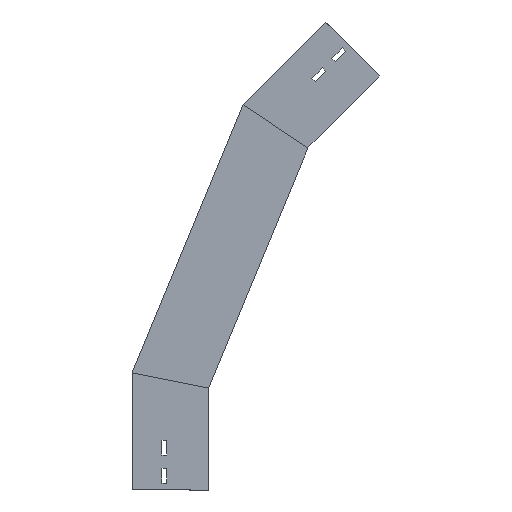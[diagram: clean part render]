
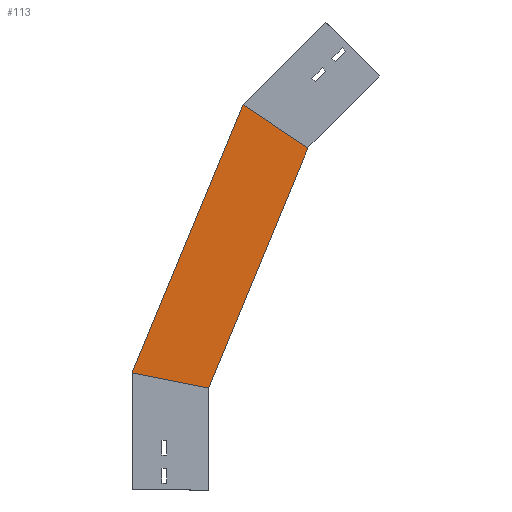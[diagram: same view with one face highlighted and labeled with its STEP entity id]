
A CAD part, left-side view. The second image highlights one B-rep face of the part: STEP entity #113.
In plain terms, the highlighted planar face has unit normal (-1, 0, 0) as drawn and (1, 0, 0) by its records, which use the part's own axes.
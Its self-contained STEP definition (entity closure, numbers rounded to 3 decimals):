
#20 = DIRECTION ( 'NONE',  ( 1., 0., 0. ) ) ;
#54 = CARTESIAN_POINT ( 'NONE',  ( 0., 112.5, 172.378 ) ) ;
#77 = LINE ( 'NONE', #306, #869 ) ;
#97 = CARTESIAN_POINT ( 'NONE',  ( 0., -51.195, 567.572 ) ) ;
#113 = ADVANCED_FACE ( 'NONE', ( #1435 ), #1058, .T. ) ;
#132 = EDGE_CURVE ( 'NONE', #1350, #738, #366, .T. ) ;
#149 = ORIENTED_EDGE ( 'NONE', *, *, #132, .T. ) ;
#169 = LINE ( 'NONE', #844, #1129 ) ;
#182 = VECTOR ( 'NONE', #1492, 1000. ) ;
#274 = DIRECTION ( 'NONE',  ( 0., -0.383, 0.924 ) ) ;
#306 = CARTESIAN_POINT ( 'NONE',  ( 0., -28.701, 144.291 ) ) ;
#366 = LINE ( 'NONE', #1339, #1147 ) ;
#392 = CARTESIAN_POINT ( 'NONE',  ( 0., 9.458, 127.166 ) ) ;
#439 = AXIS2_PLACEMENT_3D ( 'NONE', #392, #20, #947 ) ;
#537 = DIRECTION ( 'NONE',  ( 0., -0.981, -0.195 ) ) ;
#570 = VERTEX_POINT ( 'NONE', #626 ) ;
#626 = CARTESIAN_POINT ( 'NONE',  ( 0., -146.568, 503.846 ) ) ;
#657 = ORIENTED_EDGE ( 'NONE', *, *, #778, .T. ) ;
#728 = ORIENTED_EDGE ( 'NONE', *, *, #1251, .F. ) ;
#738 = VERTEX_POINT ( 'NONE', #97 ) ;
#778 = EDGE_CURVE ( 'NONE', #738, #570, #811, .T. ) ;
#811 = LINE ( 'NONE', #1254, #182 ) ;
#844 = CARTESIAN_POINT ( 'NONE',  ( 0., 9.458, 127.166 ) ) ;
#869 = VECTOR ( 'NONE', #537, 1000. ) ;
#876 = VERTEX_POINT ( 'NONE', #1312 ) ;
#895 = EDGE_LOOP ( 'NONE', ( #149, #657, #728, #1498 ) ) ;
#947 = DIRECTION ( 'NONE',  ( 0., 0., -1. ) ) ;
#1058 = PLANE ( 'NONE',  #439 ) ;
#1068 = EDGE_CURVE ( 'NONE', #1350, #876, #77, .T. ) ;
#1129 = VECTOR ( 'NONE', #274, 1000. ) ;
#1147 = VECTOR ( 'NONE', #1481, 1000. ) ;
#1251 = EDGE_CURVE ( 'NONE', #876, #570, #169, .T. ) ;
#1254 = CARTESIAN_POINT ( 'NONE',  ( 0., -212.704, 459.655 ) ) ;
#1312 = CARTESIAN_POINT ( 'NONE',  ( 0., 0., 150. ) ) ;
#1339 = CARTESIAN_POINT ( 'NONE',  ( 0., 113.395, 170.218 ) ) ;
#1350 = VERTEX_POINT ( 'NONE', #54 ) ;
#1435 = FACE_OUTER_BOUND ( 'NONE', #895, .T. ) ;
#1481 = DIRECTION ( 'NONE',  ( 0., -0.383, 0.924 ) ) ;
#1492 = DIRECTION ( 'NONE',  ( 0., -0.831, -0.556 ) ) ;
#1498 = ORIENTED_EDGE ( 'NONE', *, *, #1068, .F. ) ;
